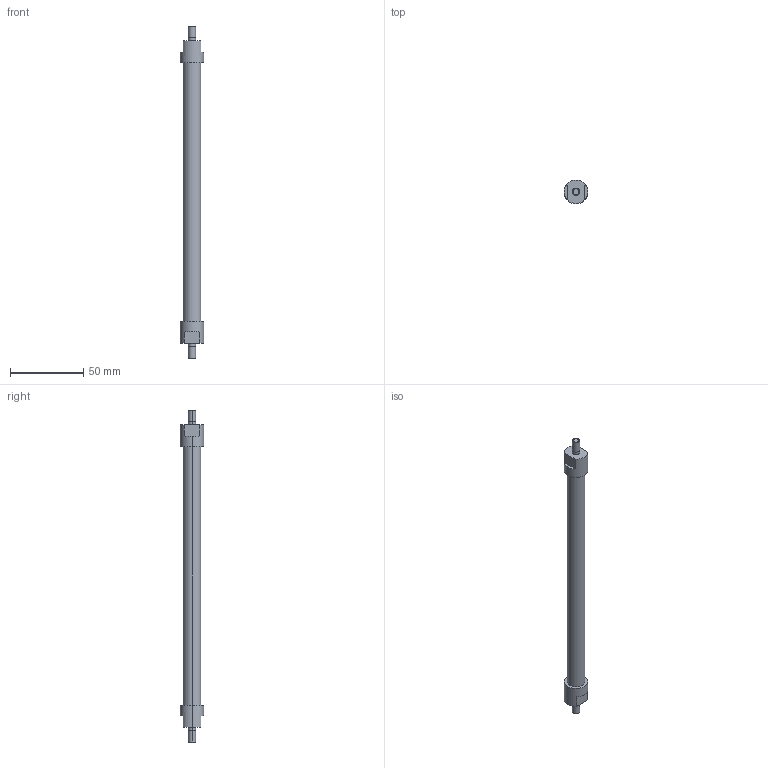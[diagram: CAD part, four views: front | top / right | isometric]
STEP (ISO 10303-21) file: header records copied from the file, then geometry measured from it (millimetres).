
FILE_DESCRIPTION(('STEP AP214'),'1');
FILE_NAME('ETT-R025N215.stp','2015-02-04T08:18:26',(' '),(' '),'Spatial InterOp 3D',' ',' ');
FILE_SCHEMA(('automotive_design'));
Length unit declared in the file: metre
Products named in the file (3): 1; 2; 3
Bounding box: 16 x 16 x 226 mm (x, y, z)
Volume: 25865.5 mm3; surface area: 9224.1 mm2
Topology: 1 solids, 7 shells, 30 faces, 81 edges, 63 vertices
Faces by surface type: plane 16, cylinder 14
Entity records: 1295 total; most frequent: DIRECTION 194, CARTESIAN_POINT 177, ORIENTED_EDGE 138, EDGE_CURVE 81, AXIS2_PLACEMENT_3D 80, VERTEX_POINT 63, CIRCLE 47, EDGE_LOOP 36
